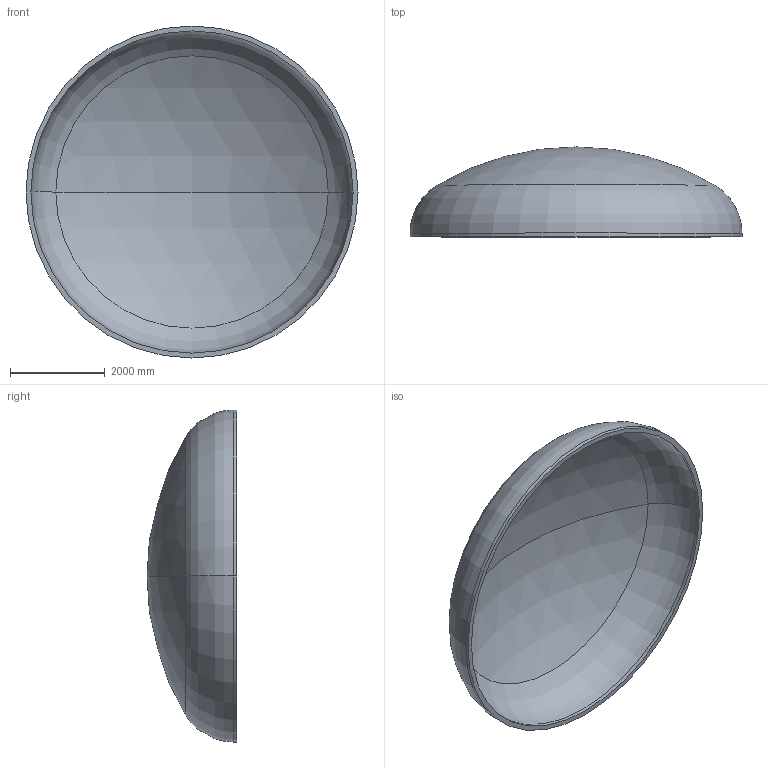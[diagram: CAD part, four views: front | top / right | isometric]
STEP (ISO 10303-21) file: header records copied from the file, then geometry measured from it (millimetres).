
FILE_DESCRIPTION (( 'STEP AP203' ), '1' );
FILE_NAME ('DIN 28013 Korbbogenform_-_Boden DIN 28013 - 7000 x 75 - I - s=102.step', '2016-07-04T10:50:08', ( '' ), ( '' ), 'SwSTEP 2.0', 'SolidWorks 2013', '' );
FILE_SCHEMA (( 'CONFIG_CONTROL_DESIGN' ));
Length unit declared in the file: millimetre
Products named in the file (1): DIN 28013 Korbbogenform_-_Boden DIN 28013 - 7000 x 75 - I - s=102
Bounding box: 7000 x 1896.63 x 7000 mm (x, y, z)
Volume: 5500744094.2 mm3; surface area: 110089888.2 mm2
Topology: 1 solids, 1 shells, 13 faces, 24 edges, 14 vertices
Faces by surface type: torus 4, cylinder 4, sphere 4, plane 1
Entity records: 407 total; most frequent: DIRECTION 72, CARTESIAN_POINT 52, ORIENTED_EDGE 48, AXIS2_PLACEMENT_3D 34, EDGE_CURVE 24, CIRCLE 20, VERTEX_POINT 14, EDGE_LOOP 14
